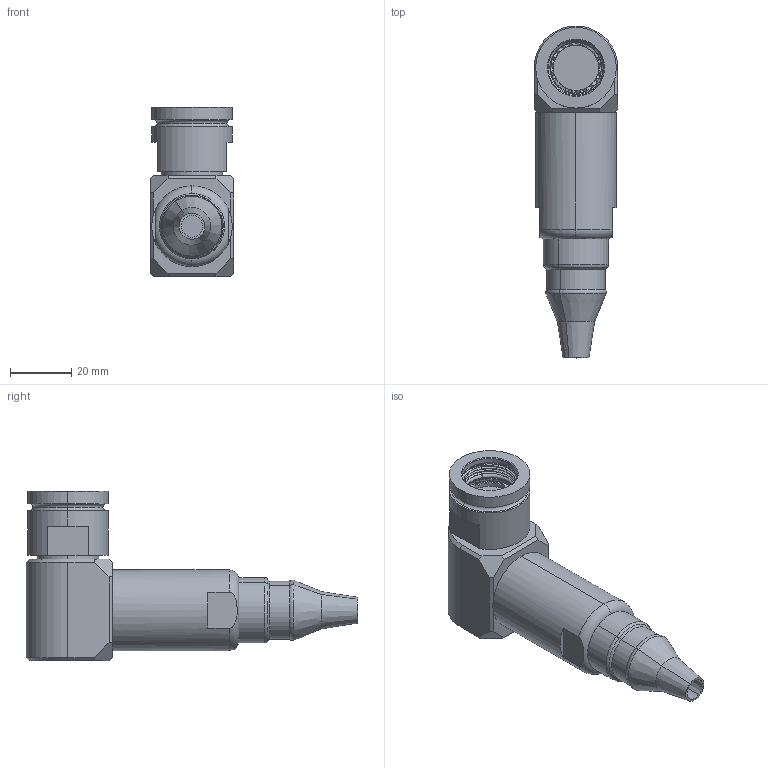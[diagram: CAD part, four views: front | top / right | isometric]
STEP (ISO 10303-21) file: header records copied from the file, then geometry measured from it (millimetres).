
FILE_DESCRIPTION (( 'STEP AP214' ), '1' );
FILE_NAME ('Q38EBSHELL-90X-13-XXXX-HX.STEP', '2025-09-19T15:32:57', ( '' ), ( '' ), 'SwSTEP 2.0', 'SolidWorks 2024', '' );
FILE_SCHEMA (( 'AUTOMOTIVE_DESIGN' ));
Length unit declared in the file: millimetre
Products named in the file (1): Q38EBSHELL-90X-13-XXXX-HX
Bounding box: 27.43 x 108.72 x 55.45 mm (x, y, z)
Volume: 60357.3 mm3; surface area: 15181.1 mm2
Topology: 2 solids, 4 shells, 220 faces, 556 edges, 359 vertices
Faces by surface type: plane 125, cylinder 46, cone 26, torus 14, bspline 9
Entity records: 9213 total; most frequent: CARTESIAN_POINT 4091, ORIENTED_EDGE 1112, DIRECTION 1060, EDGE_CURVE 556, AXIS2_PLACEMENT_3D 425, VERTEX_POINT 359, EDGE_LOOP 237, ADVANCED_FACE 220
